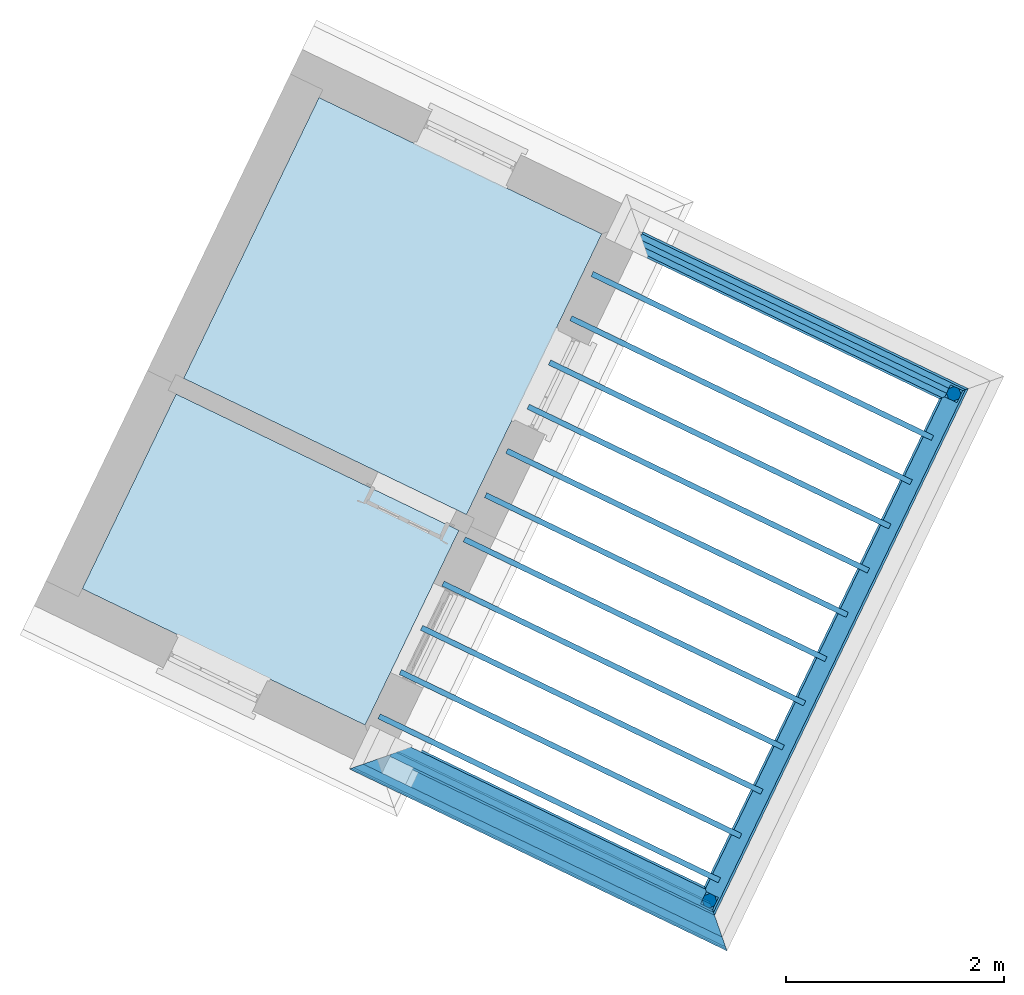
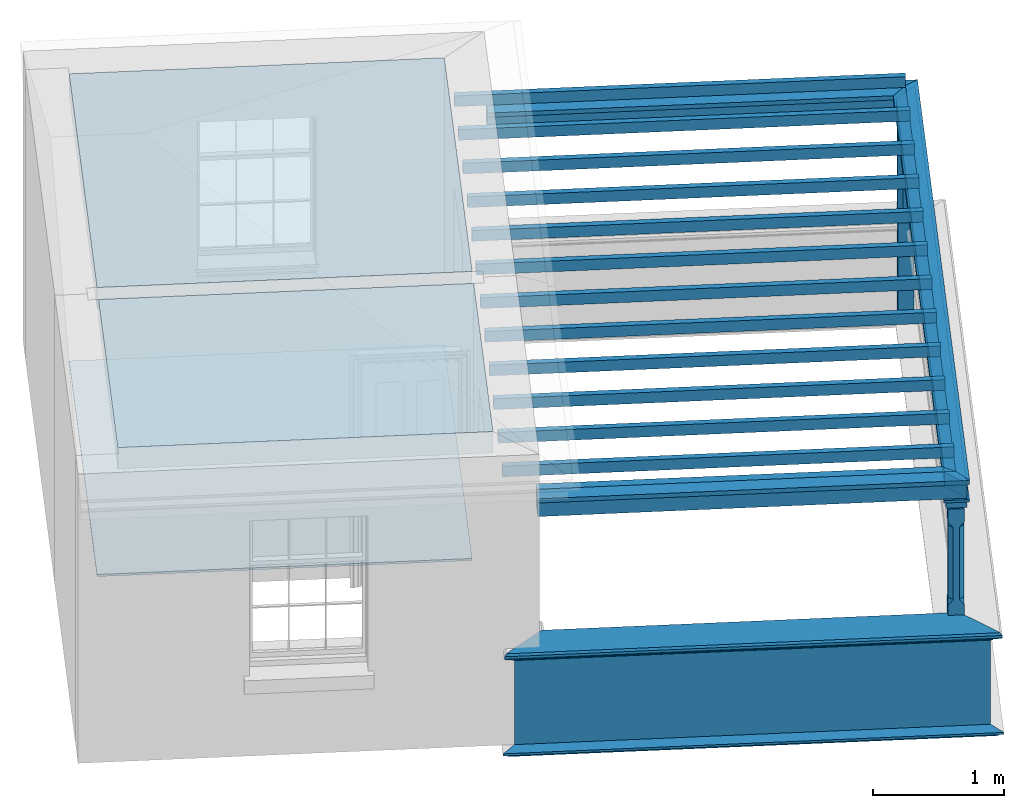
# One storey, part 1 of 4: 18 beams, 3 slabs, 3 walls, 2 columns.
"""IFC4 building model written with IfcOpenShell, lengths in metres."""

from ifc_helpers import new_model, si_unit, frame, origin, origin_with_axes, place, context, subcontext, project, spatial, polyline, outline, extrude, clip, halfspace, faceted_brep, source, transform, mapped, material_profile, profile_set, profile_usage, type_object, type_shapes, element, save


model = new_model("IFC4")

# Units and contexts
model_context = context("Model", 3, world=origin_with_axes())
body_context = subcontext(model_context, "Body", "Model", "MODEL_VIEW")
ifc_project = project(units=[si_unit("PLANEANGLEUNIT", "RADIAN"), si_unit("MASSUNIT", "GRAM", prefix="KILO"), si_unit("FORCEUNIT", "NEWTON", prefix="KILO"), si_unit("LENGTHUNIT", "METRE"), si_unit("AREAUNIT", "SQUARE_METRE"), si_unit("VOLUMEUNIT", "CUBIC_METRE")], contexts=[model_context, model_context])

# Sites, building, storey
site_1_placement = place(None, origin_with_axes())
site_1 = spatial("IfcSite", under=ifc_project, at=site_1_placement, Name="Tamar")
site_2_placement = place(site_1_placement, origin_with_axes())
site_2 = spatial("IfcSite", under=site_1, at=site_2_placement, Name="Site plot-2", CompositionType="ELEMENT")
building_placement = place(None, origin_with_axes())
building = spatial("IfcBuilding", under=site_2, at=building_placement, Name="Building plot-2", CompositionType="ELEMENT")
storey_placement = place(None, frame((0.0, 0.0, 31.55), z_axis=(0.0, 0.0, 1.0), x_axis=(1.0, 0.0, 0.0)))
storey = spatial("IfcBuildingStorey", under=building, at=storey_placement, Name="plot-2 2", CompositionType="ELEMENT", Elevation=31.55)

# Columns
column_type = type_object("IfcColumnType", Name="pergola post", PredefinedType="NOTDEFINED")
shared_shape = source(origin(), body_context, "Body", "Brep", [
    faceted_brep([(0.0246, -0.0615, 1.72), (0.0615, -0.0246, 1.72), (0.0615, -0.0615, 1.766667), (0.0615, -0.0246, 1.044444), (0.0246, -0.0615, 1.044444), (0.0615, 0.0246, 1.72), (0.0615, 0.0615, 1.766667), (-0.0246, -0.0615, 1.72), (-0.0615, -0.0615, 1.766667), (-0.0246, -0.0615, 1.044444), (0.0615, -0.0615, 0.997778), (0.0615, 0.0246, 1.044444), (0.0246, 0.0615, 1.72), (0.0615, 0.0615, 1.891111), (0.0615, -0.0615, 1.891111), (-0.0615, -0.0615, 1.891111), (-0.0615, -0.0246, 1.72), (-0.0615, -0.0246, 1.044444), (-0.0615, -0.0615, 0.997778), (0.0615, 0.0615, 0.997778), (0.0246, 0.0615, 1.044444), (-0.0246, 0.0615, 1.72), (-0.0615, 0.0615, 1.766667), (0.04305, 0.04305, 1.891111), (0.04305, -0.04305, 1.891111), (-0.0615, 0.0615, 1.891111), (-0.04305, -0.04305, 1.891111), (-0.0615, 0.0246, 1.72), (-0.0615, 0.0246, 1.044444), (0.0615, -0.0615, 0.053333), (-0.0615, -0.0615, 0.053333), (0.0615, 0.0615, 0.053333), (-0.0246, 0.0615, 1.044444), (-0.04305, 0.04305, 1.891111), (0.04305, 0.04305, 1.914444), (0.04305, -0.04305, 1.914444), (-0.04305, -0.04305, 1.914444), (-0.0615, 0.0615, 0.997778), (-0.0615, 0.0615, 0.053333), (-0.04305, -0.04305, 0.053333), (0.04305, -0.04305, 0.053333), (0.04305, 0.04305, 0.053333), (-0.04305, 0.04305, 1.914444), (0.07995, 0.07995, 1.914444), (0.07995, -0.07995, 1.914444), (-0.07995, -0.07995, 1.914444), (-0.04305, 0.04305, 0.053333), (-0.04305, -0.04305, 0.0), (0.04305, -0.04305, 0.0), (0.04305, 0.04305, 0.0), (-0.07995, 0.07995, 1.914444), (0.07995, 0.07995, 1.976667), (0.07995, -0.07995, 1.976667), (-0.07995, -0.07995, 1.976667), (-0.04305, 0.04305, 0.0), (-0.07995, 0.07995, 1.976667), (0.0984, 0.0984, 1.976667), (0.0984, -0.0984, 1.976667), (-0.0984, -0.0984, 1.976667), (-0.0984, 0.0984, 1.976667), (0.0984, 0.0984, 2.0), (0.0984, -0.0984, 2.0), (-0.0984, -0.0984, 2.0), (-0.0984, 0.0984, 2.0)], [[[0, 1, 2]], [[3, 1, 0, 4]], [[1, 5, 6, 2]], [[7, 0, 2, 8]], [[4, 0, 7, 9]], [[3, 4, 10]], [[1, 3, 11, 5]], [[5, 12, 6]], [[13, 14, 2, 6]], [[15, 8, 2, 14]], [[8, 16, 7]], [[9, 7, 16, 17]], [[9, 18, 10, 4]], [[3, 10, 19, 11]], [[20, 12, 5, 11]], [[21, 22, 6, 12]], [[14, 13, 23, 24]], [[13, 6, 22, 25]], [[25, 22, 8, 15]], [[26, 15, 14, 24]], [[16, 8, 22, 27]], [[27, 28, 17, 16]], [[17, 18, 9]], [[29, 10, 18, 30]], [[31, 19, 10, 29]], [[20, 11, 19]], [[12, 20, 32, 21]], [[21, 27, 22]], [[33, 23, 13, 25]], [[23, 34, 35, 24]], [[26, 33, 25, 15]], [[36, 26, 24, 35]], [[28, 27, 21, 32]], [[17, 28, 37, 18]], [[38, 30, 18, 37]], [[29, 30, 39, 40]], [[31, 38, 37, 19]], [[40, 41, 31, 29]], [[32, 20, 19, 37]], [[33, 42, 34, 23]], [[43, 44, 35, 34]], [[42, 33, 26, 36]], [[36, 35, 44, 45]], [[28, 32, 37]], [[46, 39, 30, 38]], [[39, 47, 48, 40]], [[46, 38, 31, 41]], [[49, 41, 40, 48]], [[43, 34, 42, 50]], [[43, 51, 52, 44]], [[45, 50, 42, 36]], [[53, 45, 44, 52]], [[46, 54, 47, 39]], [[54, 46, 41, 49]], [[50, 55, 51, 43]], [[56, 57, 52, 51]], [[55, 50, 45, 53]], [[53, 52, 57, 58]], [[56, 51, 55, 59]], [[56, 60, 61, 57]], [[58, 59, 55, 53]], [[62, 58, 57, 61]], [[59, 63, 60, 56]], [[63, 62, 61, 60]], [[58, 62, 63, 59]], [[47, 54, 49, 48]]]),
])
type_shapes(column_type, [shared_shape])
for number, where, z_axis, x_axis, name in (
    (1, (233.57279828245, 288.487166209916, 0.0), (0.0, 0.0, 1.0), (0.434117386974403, 0.900856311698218, 0.0), "pergola post"),
    (2, (235.812009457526, 293.133852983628, 0.0), (0.0, 0.0, 1.0), (-0.900856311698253, 0.43411738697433, 0.0), "pergola post"),
):
    element("IfcColumn", number, at=place(storey_placement, frame(where, z_axis=z_axis, x_axis=x_axis)), inside=storey, type_object=column_type, Name=name, context=body_context, shape_type="MappedRepresentation", body=[
        mapped(shared_shape, transform((0.0, 0.0, 0.0), scale=1.0)),
    ])

# Beams
ifc_material_profile_1 = material_profile(None, outline(polyline([(-0.08, -0.7), (0.08, -0.7), (0.08, -0.56), (-0.08, -0.56), (-0.08, -0.7)])))
ifc_profile_set_1 = profile_set([ifc_material_profile_1])
ifc_profile_usage_1 = profile_usage(ifc_profile_set_1)
beam_type_1 = type_object("IfcBeamType", Name="pergola beam_0", PredefinedType="NOTDEFINED", material=ifc_profile_set_1)
beam_1_placement = place(storey_placement, frame((234.473654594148, 288.053048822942, 2.7), z_axis=(-0.900856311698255, 0.434117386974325, 0.0), x_axis=(-0.434117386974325, -0.900856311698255, 0.0)))
element("IfcBeam", 3, at=beam_1_placement, inside=storey, type_object=beam_type_1, material=ifc_profile_usage_1, Name="pergola beam_0", context=body_context, shape_type="Clipping", body=[
    clip(clip(extrude(outline(polyline([(-0.08, -0.7), (0.08, -0.7), (0.08, -0.56), (-0.08, -0.56), (-0.08, -0.7)])), origin_with_axes(), (0.0, 0.0, 1.0), 5.21234567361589), halfspace(frame((0.0, 0.0, 4.21234567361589), z_axis=(1.60812264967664e-16, 0.0, -1.0), x_axis=(0.0, 1.0, 0.0)), True)), halfspace(frame((0.0, 0.0, 1.0), z_axis=(-0.707106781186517, 0.0, -0.707106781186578), x_axis=(0.0, 1.0, 0.0)), False)),
])
ifc_profile_usage_2 = profile_usage(ifc_profile_set_1)
beam_2_placement = place(storey_placement, frame((236.2461268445, 294.034709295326, 2.7), z_axis=(-0.434117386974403, -0.900856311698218, 0.0), x_axis=(0.900856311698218, -0.434117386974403, 0.0)))
element("IfcBeam", 4, at=beam_2_placement, inside=storey, type_object=beam_type_1, material=ifc_profile_usage_2, Name="pergola beam_0", context=body_context, shape_type="Clipping", body=[
    clip(clip(extrude(outline(polyline([(-0.08, -0.7), (0.08, -0.7), (0.08, -0.56), (-0.08, -0.56), (-0.08, -0.7)])), origin_with_axes(), (0.0, 0.0, 1.0), 7.15807761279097), halfspace(frame((0.0, 0.0, 6.15807761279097), z_axis=(0.707106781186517, 0.0, -0.707106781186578), x_axis=(0.0, 1.0, 0.0)), True)), halfspace(frame((0.0, 0.0, 1.0), z_axis=(-0.707106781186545, 0.0, -0.70710678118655), x_axis=(0.0, 1.0, 0.0)), False)),
])
ifc_profile_usage_3 = profile_usage(ifc_profile_set_1)
beam_3_placement = place(storey_placement, frame((232.017291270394, 294.962505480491, 2.7), z_axis=(0.900856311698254, -0.434117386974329, 0.0), x_axis=(0.434117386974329, 0.900856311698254, 0.0)))
element("IfcBeam", 5, at=beam_3_placement, inside=storey, type_object=beam_type_1, material=ifc_profile_usage_3, Name="pergola beam_0", context=body_context, shape_type="Clipping", body=[
    clip(clip(extrude(outline(polyline([(-0.08, -0.7), (0.08, -0.7), (0.08, -0.56), (-0.08, -0.56), (-0.08, -0.7)])), origin_with_axes(), (0.0, 0.0, 1.0), 5.21234567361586), halfspace(frame((0.0, 0.0, 4.21234567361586), z_axis=(0.707106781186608, 0.0, -0.707106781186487), x_axis=(0.0, 1.0, 0.0)), True)), halfspace(frame((0.0, 0.0, 1.0), z_axis=(-4.50212443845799e-15, 0.0, -1.0), x_axis=(0.0, 1.0, 0.0)), False)),
])
ifc_material_profile_2 = material_profile(None, outline(polyline([(0.0, -0.5), (-0.1, -0.52), (-0.1, -0.56), (0.1, -0.56), (0.1, -0.52), (0.0, -0.5)])))
ifc_profile_set_2 = profile_set([ifc_material_profile_2])
ifc_profile_usage_4 = profile_usage(ifc_profile_set_2)
beam_type_2 = type_object("IfcBeamType", Name="pergola beam_1", PredefinedType="NOTDEFINED", material=ifc_profile_set_2)
beam_4_placement = place(storey_placement, frame((234.473654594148, 288.053048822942, 2.7), z_axis=(-0.900856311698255, 0.434117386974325, 0.0), x_axis=(-0.434117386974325, -0.900856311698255, 0.0)))
element("IfcBeam", 6, at=beam_4_placement, inside=storey, type_object=beam_type_2, material=ifc_profile_usage_4, Name="pergola beam_1", context=body_context, shape_type="Clipping", body=[
    clip(clip(extrude(outline(polyline([(0.0, -0.5), (-0.1, -0.52), (-0.1, -0.56), (0.1, -0.56), (0.1, -0.52), (0.0, -0.5)])), origin_with_axes(), (0.0, 0.0, 1.0), 5.21234567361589), halfspace(frame((0.0, 0.0, 4.21234567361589), z_axis=(1.60812264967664e-16, 0.0, -1.0), x_axis=(0.0, 1.0, 0.0)), True)), halfspace(frame((0.0, 0.0, 1.0), z_axis=(-0.707106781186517, 0.0, -0.707106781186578), x_axis=(0.0, 1.0, 0.0)), False)),
])
ifc_profile_usage_5 = profile_usage(ifc_profile_set_2)
beam_5_placement = place(storey_placement, frame((236.2461268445, 294.034709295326, 2.7), z_axis=(-0.434117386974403, -0.900856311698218, 0.0), x_axis=(0.900856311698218, -0.434117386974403, 0.0)))
element("IfcBeam", 7, at=beam_5_placement, inside=storey, type_object=beam_type_2, material=ifc_profile_usage_5, Name="pergola beam_1", context=body_context, shape_type="Clipping", body=[
    clip(clip(extrude(outline(polyline([(0.0, -0.5), (-0.1, -0.52), (-0.1, -0.56), (0.1, -0.56), (0.1, -0.52), (0.0, -0.5)])), origin_with_axes(), (0.0, 0.0, 1.0), 7.15807761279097), halfspace(frame((0.0, 0.0, 6.15807761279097), z_axis=(0.707106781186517, 0.0, -0.707106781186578), x_axis=(0.0, 1.0, 0.0)), True)), halfspace(frame((0.0, 0.0, 1.0), z_axis=(-0.707106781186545, 0.0, -0.70710678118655), x_axis=(0.0, 1.0, 0.0)), False)),
])
ifc_profile_usage_6 = profile_usage(ifc_profile_set_2)
beam_6_placement = place(storey_placement, frame((232.017291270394, 294.962505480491, 2.7), z_axis=(0.900856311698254, -0.434117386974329, 0.0), x_axis=(0.434117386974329, 0.900856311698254, 0.0)))
element("IfcBeam", 8, at=beam_6_placement, inside=storey, type_object=beam_type_2, material=ifc_profile_usage_6, Name="pergola beam_1", context=body_context, shape_type="Clipping", body=[
    clip(clip(extrude(outline(polyline([(0.0, -0.5), (-0.1, -0.52), (-0.1, -0.56), (0.1, -0.56), (0.1, -0.52), (0.0, -0.5)])), origin_with_axes(), (0.0, 0.0, 1.0), 5.21234567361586), halfspace(frame((0.0, 0.0, 4.21234567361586), z_axis=(0.707106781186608, 0.0, -0.707106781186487), x_axis=(0.0, 1.0, 0.0)), True)), halfspace(frame((0.0, 0.0, 1.0), z_axis=(-4.50212443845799e-15, 0.0, -1.0), x_axis=(0.0, 1.0, 0.0)), False)),
])
beam_7_placement = place(storey_placement, frame((232.703786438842, 294.659438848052, 2.2)))
element("IfcBeam", 9, at=beam_7_placement, inside=storey, Name="My Beam", ObjectType="Beam", context=body_context, shape_type="SweptSolid", body=[
    extrude(outline(polyline([(0.0, 0.0), (-0.0217058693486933, -0.0450428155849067), (3.09737008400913, -1.54810727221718), (3.11907595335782, -1.50306445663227), (0.0, 0.0)])), origin_with_axes(), (0.0, 0.0, 1.0), 0.1),
])
beam_8_placement = place(storey_placement, frame((232.508433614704, 294.254053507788, 2.2)))
element("IfcBeam", 10, at=beam_8_placement, inside=storey, Name="My Beam", ObjectType="Beam", context=body_context, shape_type="SweptSolid", body=[
    extrude(outline(polyline([(0.0, 0.0), (-0.0217058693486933, -0.0450428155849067), (3.09737008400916, -1.54810727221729), (3.11907595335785, -1.50306445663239), (0.0, 0.0)])), origin_with_axes(), (0.0, 0.0, 1.0), 0.1),
])
beam_9_placement = place(storey_placement, frame((232.313080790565, 293.848668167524, 2.2)))
element("IfcBeam", 11, at=beam_9_placement, inside=storey, Name="My Beam", ObjectType="Beam", context=body_context, shape_type="SweptSolid", body=[
    extrude(outline(polyline([(0.0, 0.0), (-0.0217058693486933, -0.0450428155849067), (3.0973700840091, -1.54810727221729), (3.11907595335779, -1.50306445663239), (0.0, 0.0)])), origin_with_axes(), (0.0, 0.0, 1.0), 0.1),
])
beam_10_placement = place(storey_placement, frame((232.117727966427, 293.44328282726, 2.2)))
element("IfcBeam", 12, at=beam_10_placement, inside=storey, Name="My Beam", ObjectType="Beam", context=body_context, shape_type="SweptSolid", body=[
    extrude(outline(polyline([(0.0, 0.0), (-0.0217058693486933, -0.0450428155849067), (3.09737008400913, -1.54810727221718), (3.11907595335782, -1.50306445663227), (0.0, 0.0)])), origin_with_axes(), (0.0, 0.0, 1.0), 0.1),
])
beam_11_placement = place(storey_placement, frame((231.922375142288, 293.037897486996, 2.2)))
element("IfcBeam", 13, at=beam_11_placement, inside=storey, Name="My Beam", ObjectType="Beam", context=body_context, shape_type="SweptSolid", body=[
    extrude(outline(polyline([(0.0, 0.0), (-0.0217058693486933, -0.0450428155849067), (3.09737008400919, -1.54810727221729), (3.11907595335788, -1.50306445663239), (0.0, 0.0)])), origin_with_axes(), (0.0, 0.0, 1.0), 0.1),
])
beam_12_placement = place(storey_placement, frame((231.72702231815, 292.632512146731, 2.2)))
element("IfcBeam", 14, at=beam_12_placement, inside=storey, Name="My Beam", ObjectType="Beam", context=body_context, shape_type="SweptSolid", body=[
    extrude(outline(polyline([(0.0, 0.0), (-0.0217058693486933, -0.0450428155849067), (3.0973700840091, -1.54810727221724), (3.11907595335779, -1.50306445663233), (0.0, 0.0)])), origin_with_axes(), (0.0, 0.0, 1.0), 0.1),
])
beam_13_placement = place(storey_placement, frame((231.531669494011, 292.227126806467, 2.2)))
element("IfcBeam", 15, at=beam_13_placement, inside=storey, Name="My Beam", ObjectType="Beam", context=body_context, shape_type="SweptSolid", body=[
    extrude(outline(polyline([(0.0, 0.0), (-0.0217058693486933, -0.0450428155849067), (3.09737008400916, -1.54810727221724), (3.11907595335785, -1.50306445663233), (0.0, 0.0)])), origin_with_axes(), (0.0, 0.0, 1.0), 0.1),
])
beam_14_placement = place(storey_placement, frame((231.336316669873, 291.821741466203, 2.2)))
element("IfcBeam", 16, at=beam_14_placement, inside=storey, Name="My Beam", ObjectType="Beam", context=body_context, shape_type="SweptSolid", body=[
    extrude(outline(polyline([(0.0, 0.0), (-0.0217058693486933, -0.0450428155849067), (3.09737008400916, -1.54810727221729), (3.11907595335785, -1.50306445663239), (0.0, 0.0)])), origin_with_axes(), (0.0, 0.0, 1.0), 0.1),
])
beam_15_placement = place(storey_placement, frame((231.140963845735, 291.416356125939, 2.2)))
element("IfcBeam", 17, at=beam_15_placement, inside=storey, Name="My Beam", ObjectType="Beam", context=body_context, shape_type="SweptSolid", body=[
    extrude(outline(polyline([(0.0, 0.0), (-0.0217058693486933, -0.0450428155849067), (3.0973700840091, -1.54810727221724), (3.11907595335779, -1.50306445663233), (0.0, 0.0)])), origin_with_axes(), (0.0, 0.0, 1.0), 0.1),
])
for number, where, name in (
    (18, (230.945611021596, 291.010970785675, 2.2), "My Beam"),
    (19, (230.750258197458, 290.60558544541, 2.2), "My Beam"),
):
    element("IfcBeam", number, at=place(storey_placement, frame(where)), inside=storey, Name=name, ObjectType="Beam", context=body_context, shape_type="SweptSolid", body=[
        extrude(outline(polyline([(0.0, 0.0), (-0.0217058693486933, -0.0450428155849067), (3.09737008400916, -1.54810727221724), (3.11907595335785, -1.50306445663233), (0.0, 0.0)])), origin_with_axes(), (0.0, 0.0, 1.0), 0.1),
    ])
beam_16_placement = place(storey_placement, frame((230.554905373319, 290.200200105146, 2.2)))
element("IfcBeam", 20, at=beam_16_placement, inside=storey, Name="My Beam", ObjectType="Beam", context=body_context, shape_type="SweptSolid", body=[
    extrude(outline(polyline([(0.0, 0.0), (-0.0217058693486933, -0.0450428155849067), (3.09737008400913, -1.54810727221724), (3.11907595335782, -1.50306445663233), (0.0, 0.0)])), origin_with_axes(), (0.0, 0.0, 1.0), 0.1),
])

# Slabs
slab_1_placement = place(storey_placement, frame((230.416383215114, 290.097028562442, 2.5)))
element("IfcSlab", 21, at=slab_1_placement, inside=storey, Name="My Slab", ObjectType="Slab", PredefinedType="FLOOR", context=body_context, shape_type="SweptSolid", body=[
    extrude(outline(polyline([(0.0, 0.0), (0.860034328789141, 1.78469551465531), (-1.7323187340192, 3.0339352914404), (-2.59235306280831, 1.24923977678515), (0.0, 0.0)])), origin_with_axes(), (0.0, 0.0, 1.0), 0.2),
])
slab_2_placement = place(storey_placement, frame((229.993782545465, 295.848818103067, 2.5)))
element("IfcSlab", 22, at=slab_2_placement, inside=storey, Name="My Slab", ObjectType="Slab", PredefinedType="FLOOR", context=body_context, shape_type="SweptSolid", body=[
    extrude(outline(polyline([(0.0, 0.0), (-1.24025928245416, -2.57371723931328), (1.35209378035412, -3.82295701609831), (2.59235306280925, -1.24923977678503), (0.0, 0.0)])), origin_with_axes(), (0.0, 0.0, 1.0), 0.2),
])
slab_3_placement = place(storey_placement, frame((229.993782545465, 295.848818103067, 0.0)))
element("IfcSlab", 23, at=slab_3_placement, inside=storey, Name="My Slab", ObjectType="Slab", PredefinedType="FLOOR", context=body_context, shape_type="SweptSolid", body=[
    extrude(outline(polyline([(0.0, 0.0), (-1.24025928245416, -2.57371723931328), (1.35209378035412, -3.82295701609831), (2.59235306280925, -1.24923977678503), (0.0, 0.0)])), origin_with_axes(), (0.0, 0.0, 1.0), 0.02),
])

# Walls
ifc_material_profile_3 = material_profile(None, outline(polyline([(0.25, 0.0), (0.25, 0.795), (0.09, 0.795), (0.09, 0.02), (-0.08, 0.02), (-0.08, 0.0), (0.25, 0.0)])))
ifc_profile_set_3 = profile_set([ifc_material_profile_3])
ifc_profile_usage_7 = profile_usage(ifc_profile_set_3)
wall_type_1 = type_object("IfcWallType", Name="parapet_0", PredefinedType="PARAPET", material=ifc_profile_set_3)
wall_1_placement = place(storey_placement, frame((234.473654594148, 288.053048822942, 0.0), z_axis=(-0.900856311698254, 0.434117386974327, 0.0), x_axis=(-0.434117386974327, -0.900856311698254, 0.0)))
element("IfcWall", 24, at=wall_1_placement, inside=storey, type_object=wall_type_1, material=ifc_profile_usage_7, Name="parapet_0", context=body_context, shape_type="Clipping", body=[
    clip(clip(extrude(outline(polyline([(0.25, 0.0), (0.25, 0.795), (0.09, 0.795), (0.09, 0.02), (-0.08, 0.02), (-0.08, 0.0), (0.25, 0.0)])), origin_with_axes(), (0.0, 0.0, 1.0), 5.15234567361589), halfspace(frame((0.0, 0.0, 4.15234567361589), z_axis=(0.707106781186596, 0.0, -0.707106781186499), x_axis=(0.0, 1.0, 0.0)), True)), halfspace(frame((0.0, 0.0, 1.0), z_axis=(-0.707106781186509, 0.0, -0.707106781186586), x_axis=(0.0, 1.0, 0.0)), False)),
])
ifc_material_profile_4 = material_profile(None, outline(polyline([(0.265, 0.795), (0.268, 0.807), (0.274, 0.816), (0.283, 0.822), (0.295, 0.825), (0.295, 0.84), (0.305, 0.84), (0.317, 0.842), (0.326, 0.849), (0.333, 0.858), (0.335, 0.87), (0.333, 0.882), (0.326, 0.891), (0.317, 0.898), (0.305, 0.9), (0.035, 0.9), (0.023, 0.898), (0.014, 0.891), (0.007, 0.882), (0.005, 0.87), (0.007, 0.858), (0.014, 0.849), (0.023, 0.842), (0.035, 0.84), (0.045, 0.84), (0.045, 0.825), (0.057, 0.822), (0.066, 0.816), (0.072, 0.807), (0.075, 0.795), (0.265, 0.795)])))
ifc_profile_set_4 = profile_set([ifc_material_profile_4])
ifc_profile_usage_8 = profile_usage(ifc_profile_set_4)
wall_type_2 = type_object("IfcWallType", Name="parapet_1", PredefinedType="PARAPET", material=ifc_profile_set_4)
wall_2_placement = place(storey_placement, frame((234.473654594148, 288.053048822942, 0.0), z_axis=(-0.900856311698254, 0.434117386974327, 0.0), x_axis=(-0.434117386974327, -0.900856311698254, 0.0)))
element("IfcWall", 25, at=wall_2_placement, inside=storey, type_object=wall_type_2, material=ifc_profile_usage_8, Name="parapet_1", context=body_context, shape_type="Clipping", body=[
    clip(clip(extrude(outline(polyline([(0.265, 0.795), (0.268, 0.807), (0.274, 0.816), (0.283, 0.822), (0.295, 0.825), (0.295, 0.84), (0.305, 0.84), (0.317, 0.842), (0.326, 0.849), (0.333, 0.858), (0.335, 0.87), (0.333, 0.882), (0.326, 0.891), (0.317, 0.898), (0.305, 0.9), (0.035, 0.9), (0.023, 0.898), (0.014, 0.891), (0.007, 0.882), (0.005, 0.87), (0.007, 0.858), (0.014, 0.849), (0.023, 0.842), (0.035, 0.84), (0.045, 0.84), (0.045, 0.825), (0.057, 0.822), (0.066, 0.816), (0.072, 0.807), (0.075, 0.795), (0.265, 0.795)])), origin_with_axes(), (0.0, 0.0, 1.0), 5.15234567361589), halfspace(frame((0.0, 0.0, 4.15234567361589), z_axis=(0.707106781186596, 0.0, -0.707106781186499), x_axis=(0.0, 1.0, 0.0)), True)), halfspace(frame((0.0, 0.0, 1.0), z_axis=(-0.707106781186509, 0.0, -0.707106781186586), x_axis=(0.0, 1.0, 0.0)), False)),
])
ifc_material_profile_5 = material_profile(None, outline(polyline([(0.25, -0.1), (0.265, -0.1), (0.265, -0.085), (0.278, -0.084), (0.289, -0.081), (0.301, -0.074), (0.309, -0.065), (0.315, -0.055), (0.324, -0.044), (0.334, -0.038), (0.345, -0.035), (0.345, -0.015), (0.25, 0.0), (0.25, -0.1)])))
ifc_profile_set_5 = profile_set([ifc_material_profile_5])
ifc_profile_usage_9 = profile_usage(ifc_profile_set_5)
wall_type_3 = type_object("IfcWallType", Name="parapet_2", PredefinedType="PARAPET", material=ifc_profile_set_5)
wall_3_placement = place(storey_placement, frame((234.473654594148, 288.053048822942, 0.0), z_axis=(-0.900856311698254, 0.434117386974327, 0.0), x_axis=(-0.434117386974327, -0.900856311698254, 0.0)))
element("IfcWall", 26, at=wall_3_placement, inside=storey, type_object=wall_type_3, material=ifc_profile_usage_9, Name="parapet_2", context=body_context, shape_type="Clipping", body=[
    clip(clip(extrude(outline(polyline([(0.25, -0.1), (0.265, -0.1), (0.265, -0.085), (0.278, -0.084), (0.289, -0.081), (0.301, -0.074), (0.309, -0.065), (0.315, -0.055), (0.324, -0.044), (0.334, -0.038), (0.345, -0.035), (0.345, -0.015), (0.25, 0.0), (0.25, -0.1)])), origin_with_axes(), (0.0, 0.0, 1.0), 5.15234567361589), halfspace(frame((0.0, 0.0, 4.15234567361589), z_axis=(0.707106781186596, 0.0, -0.707106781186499), x_axis=(0.0, 1.0, 0.0)), True)), halfspace(frame((0.0, 0.0, 1.0), z_axis=(-0.707106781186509, 0.0, -0.707106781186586), x_axis=(0.0, 1.0, 0.0)), False)),
])

save(model, "model.ifc")
